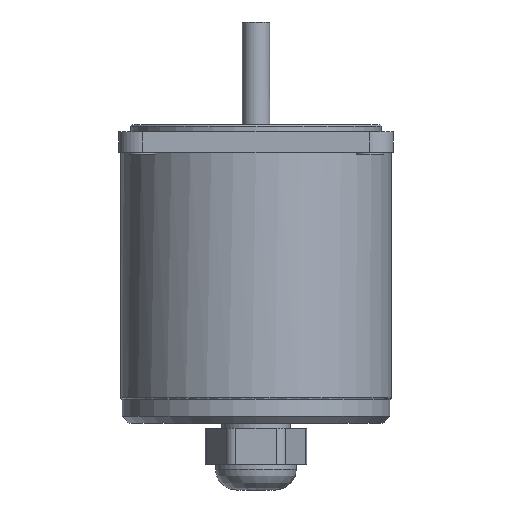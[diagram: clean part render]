
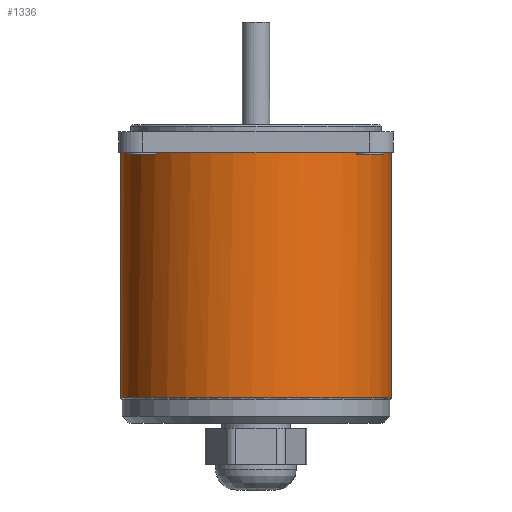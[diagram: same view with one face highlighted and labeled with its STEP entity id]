
A CAD part, front view. The second image highlights one B-rep face of the part: STEP entity #1336.
In plain terms, the highlighted cylindrical face has radius 39.5 mm (diameter 79 mm), a full revolution.
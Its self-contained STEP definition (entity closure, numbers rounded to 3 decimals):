
#1258=CARTESIAN_POINT('',(-39.5,0.,-71.5));
#1259=VERTEX_POINT('',#1258);
#1260=CARTESIAN_POINT('',(0.0,0.0,-71.5));
#1261=DIRECTION('',(0.0,0.0,-1.0));
#1262=DIRECTION('',(1.0,0.0,0.0));
#1263=AXIS2_PLACEMENT_3D('',#1260,#1261,#1262);
#1264=CIRCLE('',#1263,39.5);
#1265=EDGE_CURVE('',#1259,#1259,#1264,.T.);
#1270=CARTESIAN_POINT('',(0.0,0.0,0.0));
#1271=DIRECTION('',(0.0,0.0,-1.0));
#1272=DIRECTION('',(1.0,0.0,0.0));
#1273=AXIS2_PLACEMENT_3D('',#1270,#1271,#1272);
#1274=CYLINDRICAL_SURFACE('',#1273,39.5);
#1275=CARTESIAN_POINT('',(-27.65,28.209,-61.5));
#1276=VERTEX_POINT('',#1275);
#1277=CARTESIAN_POINT('',(-27.65,28.209,0.0));
#1278=VERTEX_POINT('',#1277);
#1279=CARTESIAN_POINT('',(-27.65,28.209,-61.5));
#1280=DIRECTION('',(0.0,0.0,1.0));
#1281=VECTOR('',#1280,61.5);
#1282=LINE('',#1279,#1281);
#1283=EDGE_CURVE('',#1276,#1278,#1282,.T.);
#1284=ORIENTED_EDGE('',*,*,#1283,.F.);
#1285=CARTESIAN_POINT('',(-26.663,29.144,-62.5));
#1286=VERTEX_POINT('',#1285);
#1287=CARTESIAN_POINT('',(-26.662,29.144,-62.5));
#1288=CARTESIAN_POINT('',(-26.857,28.966,-62.5));
#1289=CARTESIAN_POINT('',(-27.179,28.665,-62.404));
#1290=CARTESIAN_POINT('',(-27.547,28.31,-62.025));
#1291=CARTESIAN_POINT('',(-27.65,28.209,-61.678));
#1292=CARTESIAN_POINT('',(-27.65,28.209,-61.5));
#1293=B_SPLINE_CURVE_WITH_KNOTS('',3,(#1287,#1288,#1289,#1290,#1291,#1292),.UNSPECIFIED.,.F.,.U.,(4,1,1,4),(-0.187,-0.107,-0.053,0.),.UNSPECIFIED.);
#1294=EDGE_CURVE('',#1286,#1276,#1293,.T.);
#1295=ORIENTED_EDGE('',*,*,#1294,.F.);
#1296=CARTESIAN_POINT('',(26.663,29.144,-62.5));
#1297=VERTEX_POINT('',#1296);
#1298=CARTESIAN_POINT('',(0.0,0.0,-62.5));
#1299=DIRECTION('',(0.0,0.0,1.0));
#1300=DIRECTION('',(0.0,1.0,0.0));
#1301=AXIS2_PLACEMENT_3D('',#1298,#1299,#1300);
#1302=CIRCLE('',#1301,39.5);
#1303=EDGE_CURVE('',#1297,#1286,#1302,.T.);
#1304=ORIENTED_EDGE('',*,*,#1303,.F.);
#1305=CARTESIAN_POINT('',(27.65,28.209,-61.5));
#1306=VERTEX_POINT('',#1305);
#1307=CARTESIAN_POINT('',(27.65,28.209,-61.5));
#1308=CARTESIAN_POINT('',(27.65,28.209,-61.633));
#1309=CARTESIAN_POINT('',(27.594,28.263,-61.899));
#1310=CARTESIAN_POINT('',(27.284,28.565,-62.362));
#1311=CARTESIAN_POINT('',(26.922,28.907,-62.5));
#1312=CARTESIAN_POINT('',(26.662,29.144,-62.5));
#1313=B_SPLINE_CURVE_WITH_KNOTS('',3,(#1307,#1308,#1309,#1310,#1311,#1312),.UNSPECIFIED.,.F.,.U.,(4,1,1,4),(-0.187,-0.147,-0.107,0.),.UNSPECIFIED.);
#1314=EDGE_CURVE('',#1306,#1297,#1313,.T.);
#1315=ORIENTED_EDGE('',*,*,#1314,.F.);
#1316=CARTESIAN_POINT('',(27.65,28.209,0.0));
#1317=VERTEX_POINT('',#1316);
#1318=CARTESIAN_POINT('',(27.65,28.209,0.0));
#1319=DIRECTION('',(0.0,0.0,-1.0));
#1320=VECTOR('',#1319,61.5);
#1321=LINE('',#1318,#1320);
#1322=EDGE_CURVE('',#1317,#1306,#1321,.T.);
#1323=ORIENTED_EDGE('',*,*,#1322,.F.);
#1324=CARTESIAN_POINT('',(0.0,0.0,0.0));
#1325=DIRECTION('',(0.0,0.0,1.0));
#1326=DIRECTION('',(1.0,0.0,0.0));
#1327=AXIS2_PLACEMENT_3D('',#1324,#1325,#1326);
#1328=CIRCLE('',#1327,39.5);
#1329=EDGE_CURVE('',#1278,#1317,#1328,.T.);
#1330=ORIENTED_EDGE('',*,*,#1329,.F.);
#1331=EDGE_LOOP('',(#1284,#1295,#1304,#1315,#1323,#1330));
#1332=FACE_OUTER_BOUND('',#1331,.T.);
#1333=ORIENTED_EDGE('',*,*,#1265,.F.);
#1334=EDGE_LOOP('',(#1333));
#1335=FACE_BOUND('',#1334,.T.);
#1336=ADVANCED_FACE('',(#1332,#1335),#1274,.T.);
